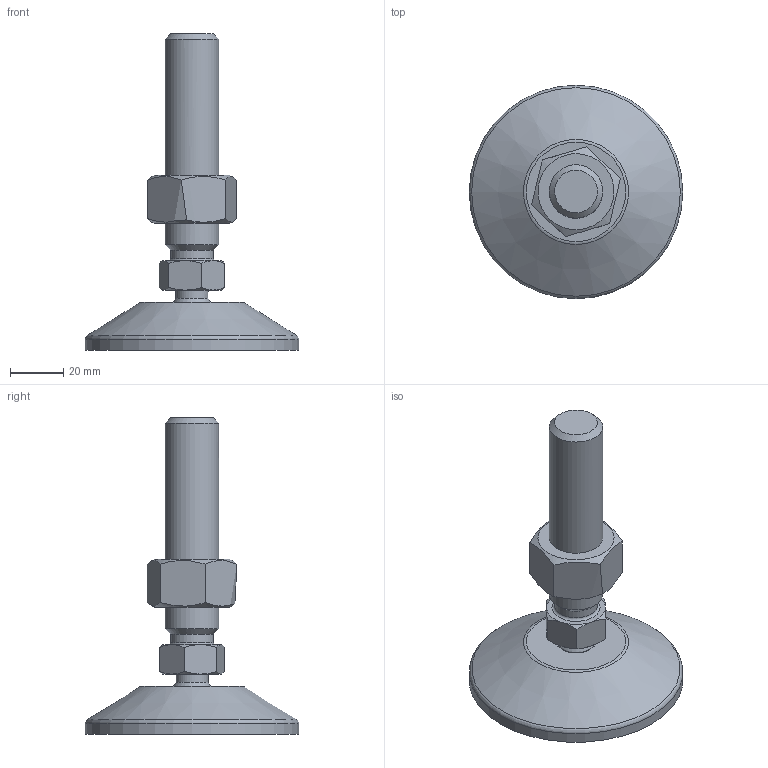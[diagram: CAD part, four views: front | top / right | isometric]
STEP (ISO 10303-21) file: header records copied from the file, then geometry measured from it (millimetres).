
FILE_DESCRIPTION(('STEP AP203'), '1');
FILE_NAME('栖闉罻', '', ('UNSPECIFIED'), ('UNSPECIFIED'), 'C3D Converter', 'C3D Toolkit', '');
FILE_SCHEMA(('CONFIG_CONTROL_DESIGN'));
Length unit declared in the file: millimetre
Products named in the file (4): A00020.120085; A00015.1080
Assembly tree (3 placements, depth 3):
  (unnamed)
    A00020.120085
      (unnamed)
    A00015.1080
Bounding box: 80 x 80 x 118.5 mm (x, y, z)
Volume: 77351.6 mm3; surface area: 27686.8 mm2
Topology: 3 solids, 3 shells, 190 faces, 485 edges, 322 vertices
Faces by surface type: plane 95, cylinder 58, cone 21, torus 14, sphere 2
Full cylindrical faces by diameter (mm): 4 x8, 12 x1, 14.3 x1, 15 x2, 15.5 x1, 16 x1, 17.294 x1, 20 x1, 69.3 x1, 80 x1
Entity records: 9565 total; most frequent: CARTESIAN_POINT 3350, DIRECTION 952, ORIENTED_EDGE 894, EDGE_CURVE 447, AXIS2_PLACEMENT_3D 382, VERTEX_POINT 320, EDGE_LOOP 247, FACE_BOUND 210
